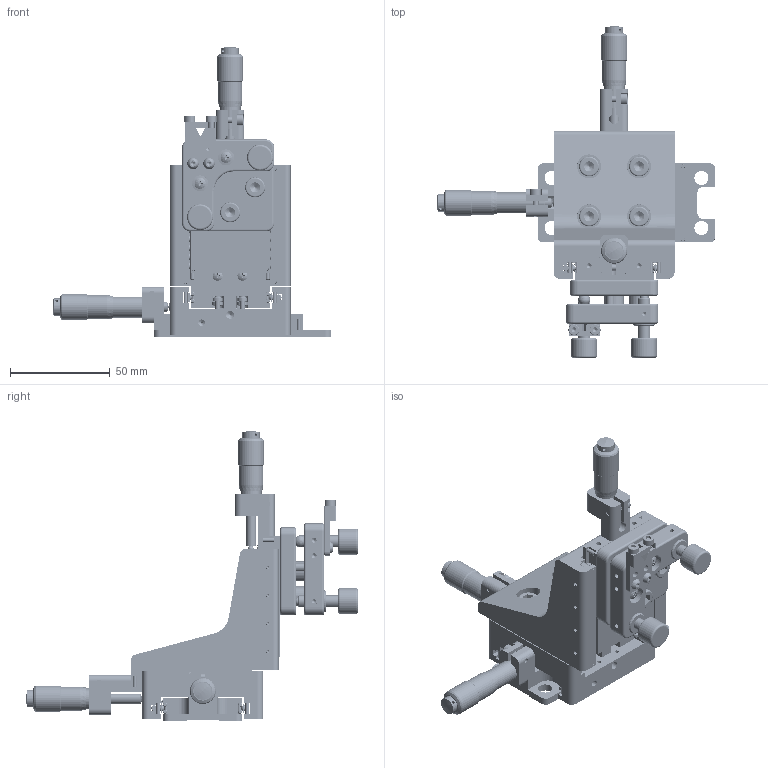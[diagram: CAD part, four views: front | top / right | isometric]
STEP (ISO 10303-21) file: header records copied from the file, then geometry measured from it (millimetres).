
FILE_DESCRIPTION (( 'STEP AP203' ), '1' );
FILE_NAME ('7SAM502L五维光纤调整架（左手型）.STEP', '2022-05-24T06:50:19', ( '' ), ( '' ), 'SwSTEP 2.0', 'SolidWorks 2018', '' );
FILE_SCHEMA (( 'CONFIG_CONTROL_DESIGN' ));
Products named in the file (1): 7SAM502L五维光纤调整架（左手型）
Bounding box: 139.4 x 166.1 x 145.15 mm (x, y, z)
Volume: 242046.8 mm3; surface area: 139061.5 mm2
Topology: 195 solids, 195 shells, 3062 faces, 7467 edges, 4642 vertices
Faces by surface type: plane 1143, cylinder 1062, cone 577, sphere 148, torus 102, bspline 30
Entity records: 131985 total; most frequent: CARTESIAN_POINT 59697, DIRECTION 16226, ORIENTED_EDGE 14134, EDGE_CURVE 7067, AXIS2_PLACEMENT_3D 6431, VERTEX_POINT 4492, EDGE_LOOP 3551, CIRCLE 3398
